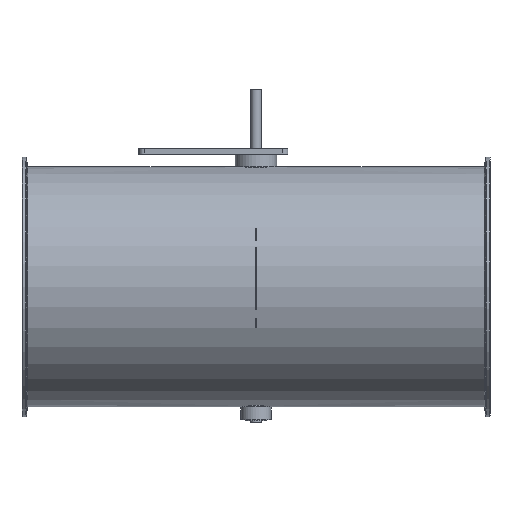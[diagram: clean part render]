
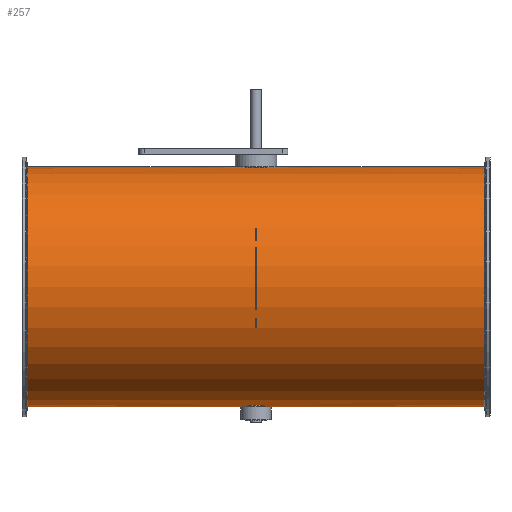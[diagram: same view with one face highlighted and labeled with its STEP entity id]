
A CAD part, top view. The second image highlights one B-rep face of the part: STEP entity #257.
In plain terms, the highlighted cylindrical face has radius 112.8 mm (diameter 225.6 mm), a full revolution.
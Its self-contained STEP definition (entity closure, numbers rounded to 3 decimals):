
#103=B_SPLINE_CURVE_WITH_KNOTS('',3,(#1457,#1458,#1459,#1460,#1461,#1462,
#1463,#1464,#1465,#1466,#1467,#1468,#1469,#1470,#1471,#1472,#1473,#1474),
 .UNSPECIFIED.,.T.,.F.,(2,2,2,2,2,2,2,2,2,2,2),(-0.125,0.,0.125,
0.25,0.375,0.5,0.625,
0.75,0.875,1.,1.125),.UNSPECIFIED.);
#104=B_SPLINE_CURVE_WITH_KNOTS('',3,(#1476,#1477,#1478,#1479,#1480,#1481,
#1482,#1483,#1484,#1485,#1486,#1487,#1488,#1489,#1490,#1491,#1492,#1493),
 .UNSPECIFIED.,.T.,.F.,(2,2,2,2,2,2,2,2,2,2,2),(-0.125,0.,0.125,0.25,0.375,
0.5,0.625,0.75,0.875,1.,1.125),.UNSPECIFIED.);
#207=CYLINDRICAL_SURFACE('',#996,112.8);
#257=ADVANCED_FACE('',(#363,#364,#365,#366),#207,.T.);
#363=FACE_BOUND('',#479,.T.);
#364=FACE_BOUND('',#480,.T.);
#365=FACE_BOUND('',#481,.T.);
#366=FACE_BOUND('',#482,.T.);
#479=EDGE_LOOP('',(#651));
#480=EDGE_LOOP('',(#652));
#481=EDGE_LOOP('',(#653));
#482=EDGE_LOOP('',(#654));
#651=ORIENTED_EDGE('',*,*,#829,.T.);
#652=ORIENTED_EDGE('',*,*,#830,.F.);
#653=ORIENTED_EDGE('',*,*,#831,.F.);
#654=ORIENTED_EDGE('',*,*,#832,.T.);
#743=VERTEX_POINT('',#1456);
#744=VERTEX_POINT('',#1475);
#745=VERTEX_POINT('',#1494);
#746=VERTEX_POINT('',#1496);
#829=EDGE_CURVE('',#743,#743,#891,.T.);
#830=EDGE_CURVE('',#744,#744,#103,.T.);
#831=EDGE_CURVE('',#745,#745,#104,.T.);
#832=EDGE_CURVE('',#746,#746,#892,.T.);
#891=CIRCLE('',#994,112.8);
#892=CIRCLE('',#995,112.8);
#994=AXIS2_PLACEMENT_3D('',#1455,#1226,#1227);
#995=AXIS2_PLACEMENT_3D('',#1495,#1228,#1229);
#996=AXIS2_PLACEMENT_3D('',#1497,#1230,#1231);
#1226=DIRECTION('',(-1.,0.,0.));
#1227=DIRECTION('',(0.,0.,-1.));
#1228=DIRECTION('',(1.,0.,0.));
#1229=DIRECTION('',(0.,0.,1.));
#1230=DIRECTION('',(1.,0.,0.));
#1231=DIRECTION('',(0.,0.,-1.));
#1455=CARTESIAN_POINT('',(214.804,-51.,125.));
#1456=CARTESIAN_POINT('',(214.804,-51.,12.2));
#1457=CARTESIAN_POINT('',(2.644,61.356,115.));
#1458=CARTESIAN_POINT('',(-2.644,61.356,115.));
#1459=CARTESIAN_POINT('',(-5.228,61.462,116.085));
#1460=CARTESIAN_POINT('',(-8.916,61.694,119.774));
#1461=CARTESIAN_POINT('',(-9.999,61.8,122.385));
#1462=CARTESIAN_POINT('',(-10.001,61.8,127.605));
#1463=CARTESIAN_POINT('',(-8.941,61.696,130.2));
#1464=CARTESIAN_POINT('',(-5.208,61.461,133.936));
#1465=CARTESIAN_POINT('',(-2.615,61.356,134.999));
#1466=CARTESIAN_POINT('',(2.607,61.356,135.001));
#1467=CARTESIAN_POINT('',(5.219,61.462,133.92));
#1468=CARTESIAN_POINT('',(8.91,61.694,130.236));
#1469=CARTESIAN_POINT('',(9.997,61.8,127.651));
#1470=CARTESIAN_POINT('',(10.003,61.8,122.368));
#1471=CARTESIAN_POINT('',(8.92,61.694,119.781));
#1472=CARTESIAN_POINT('',(5.233,61.463,116.088));
#1473=CARTESIAN_POINT('',(2.644,61.356,115.));
#1474=CARTESIAN_POINT('',(-2.644,61.356,115.));
#1475=CARTESIAN_POINT('',(0.,61.356,115.));
#1476=CARTESIAN_POINT('',(-2.644,-163.356,115.));
#1477=CARTESIAN_POINT('',(2.644,-163.356,115.));
#1478=CARTESIAN_POINT('',(5.228,-163.462,116.085));
#1479=CARTESIAN_POINT('',(8.916,-163.694,119.774));
#1480=CARTESIAN_POINT('',(9.999,-163.8,122.385));
#1481=CARTESIAN_POINT('',(10.001,-163.8,127.605));
#1482=CARTESIAN_POINT('',(8.941,-163.696,130.2));
#1483=CARTESIAN_POINT('',(5.208,-163.461,133.936));
#1484=CARTESIAN_POINT('',(2.615,-163.356,134.999));
#1485=CARTESIAN_POINT('',(-2.607,-163.356,135.001));
#1486=CARTESIAN_POINT('',(-5.219,-163.462,133.92));
#1487=CARTESIAN_POINT('',(-8.91,-163.694,130.236));
#1488=CARTESIAN_POINT('',(-9.997,-163.8,127.651));
#1489=CARTESIAN_POINT('',(-10.003,-163.8,122.368));
#1490=CARTESIAN_POINT('',(-8.92,-163.694,119.781));
#1491=CARTESIAN_POINT('',(-5.233,-163.463,116.088));
#1492=CARTESIAN_POINT('',(-2.644,-163.356,115.));
#1493=CARTESIAN_POINT('',(2.644,-163.356,115.));
#1494=CARTESIAN_POINT('',(0.,-163.356,115.));
#1495=CARTESIAN_POINT('',(-214.804,-51.,125.));
#1496=CARTESIAN_POINT('',(-214.804,-51.,237.8));
#1497=CARTESIAN_POINT('',(-220.,-51.,125.));
